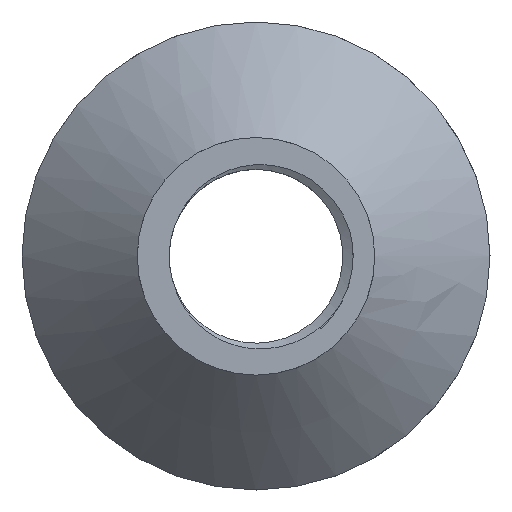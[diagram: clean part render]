
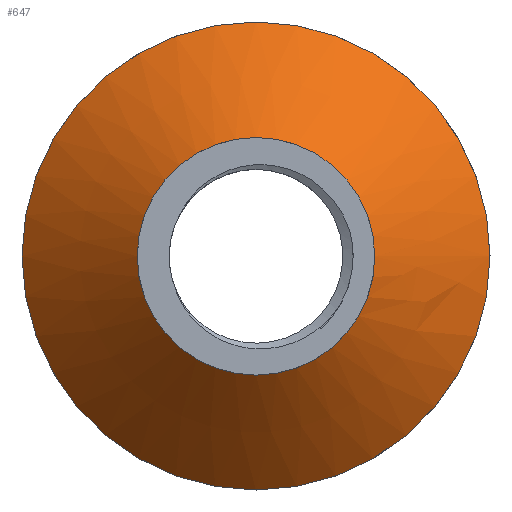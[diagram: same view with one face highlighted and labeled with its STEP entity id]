
A CAD part, front view. The second image highlights one B-rep face of the part: STEP entity #647.
In plain terms, the highlighted free-form (B-spline) face has degree [1, 2] with [2, 9] control points.
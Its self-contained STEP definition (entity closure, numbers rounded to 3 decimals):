
#29=(
BOUNDED_SURFACE()
B_SPLINE_SURFACE(1,2,((#3430,#3431,#3432,#3433,#3434,#3435,#3436,#3437,
#3438),(#3439,#3440,#3441,#3442,#3443,#3444,#3445,#3446,#3447)),
 .UNSPECIFIED.,.F.,.T.,.F.)
B_SPLINE_SURFACE_WITH_KNOTS((2,2),(3,2,2,2,3),(-0.002,0.69),
(-3.142,-1.571,0.,1.571,3.142),
 .UNSPECIFIED.)
GEOMETRIC_REPRESENTATION_ITEM()
RATIONAL_B_SPLINE_SURFACE(((1.,0.707,1.,0.707,1.,
0.707,1.,0.707,1.),(1.,0.707,1.,0.707,
1.,0.707,1.,0.707,1.)))
REPRESENTATION_ITEM('')
SURFACE()
);
#83=FACE_OUTER_BOUND('',#123,.T.);
#123=EDGE_LOOP('',(#582,#583,#584,#585,#586,#587));
#140=CIRCLE('',#695,16.5);
#142=CIRCLE('',#697,16.5);
#144=CIRCLE('',#704,32.5);
#145=CIRCLE('',#705,32.5);
#185=B_SPLINE_CURVE_WITH_KNOTS('',1,(#3448,#3449),.UNSPECIFIED.,.F.,.F.,
(2,2),(-0.689,0.),.UNSPECIFIED.);
#287=VERTEX_POINT('',#1676);
#288=VERTEX_POINT('',#1677);
#292=VERTEX_POINT('',#2369);
#293=VERTEX_POINT('',#2371);
#362=EDGE_CURVE('',#287,#288,#140,.T.);
#365=EDGE_CURVE('',#288,#287,#142,.T.);
#376=EDGE_CURVE('',#292,#293,#144,.T.);
#377=EDGE_CURVE('',#293,#292,#145,.T.);
#393=EDGE_CURVE('',#288,#293,#185,.T.);
#582=ORIENTED_EDGE('',*,*,#362,.T.);
#583=ORIENTED_EDGE('',*,*,#393,.T.);
#584=ORIENTED_EDGE('',*,*,#376,.F.);
#585=ORIENTED_EDGE('',*,*,#377,.F.);
#586=ORIENTED_EDGE('',*,*,#393,.F.);
#587=ORIENTED_EDGE('',*,*,#365,.T.);
#647=ADVANCED_FACE('',(#83),#29,.F.);
#695=AXIS2_PLACEMENT_3D('',#1678,#805,#806);
#697=AXIS2_PLACEMENT_3D('',#1682,#810,#811);
#704=AXIS2_PLACEMENT_3D('',#2372,#825,#826);
#705=AXIS2_PLACEMENT_3D('',#2373,#827,#828);
#805=DIRECTION('center_axis',(0.,1.,0.));
#806=DIRECTION('ref_axis',(-1.,0.,0.));
#810=DIRECTION('center_axis',(0.,1.,0.));
#811=DIRECTION('ref_axis',(-1.,0.,0.));
#825=DIRECTION('center_axis',(0.,1.,0.));
#826=DIRECTION('ref_axis',(1.,0.,0.));
#827=DIRECTION('center_axis',(0.,1.,0.));
#828=DIRECTION('ref_axis',(1.,0.,0.));
#1676=CARTESIAN_POINT('',(16.5,2.,-0.045));
#1677=CARTESIAN_POINT('',(16.5,2.,-0.069));
#1678=CARTESIAN_POINT('Origin',(0.,2.,-0.045));
#1682=CARTESIAN_POINT('Origin',(0.,2.,-0.045));
#2369=CARTESIAN_POINT('',(-32.5,17.678,0.));
#2371=CARTESIAN_POINT('',(32.5,17.678,-0.047));
#2372=CARTESIAN_POINT('Origin',(0.,17.678,0.));
#2373=CARTESIAN_POINT('Origin',(0.,17.678,0.));
#3430=CARTESIAN_POINT('Ctrl Pts',(32.556,17.733,-0.047));
#3431=CARTESIAN_POINT('Ctrl Pts',(32.556,17.687,32.509));
#3432=CARTESIAN_POINT('Ctrl Pts',(0.,17.687,
32.509));
#3433=CARTESIAN_POINT('Ctrl Pts',(-32.556,17.687,32.509));
#3434=CARTESIAN_POINT('Ctrl Pts',(-32.556,17.733,-0.047));
#3435=CARTESIAN_POINT('Ctrl Pts',(-32.556,17.779,-32.603));
#3436=CARTESIAN_POINT('Ctrl Pts',(0.,17.779,
-32.603));
#3437=CARTESIAN_POINT('Ctrl Pts',(32.556,17.779,-32.603));
#3438=CARTESIAN_POINT('Ctrl Pts',(32.556,17.733,-0.047));
#3439=CARTESIAN_POINT('Ctrl Pts',(16.474,1.975,-0.069));
#3440=CARTESIAN_POINT('Ctrl Pts',(16.474,1.951,16.405));
#3441=CARTESIAN_POINT('Ctrl Pts',(0.,1.951,
16.405));
#3442=CARTESIAN_POINT('Ctrl Pts',(-16.474,1.951,16.405));
#3443=CARTESIAN_POINT('Ctrl Pts',(-16.474,1.975,-0.069));
#3444=CARTESIAN_POINT('Ctrl Pts',(-16.474,1.998,-16.543));
#3445=CARTESIAN_POINT('Ctrl Pts',(0.,1.998,
-16.543));
#3446=CARTESIAN_POINT('Ctrl Pts',(16.474,1.998,-16.543));
#3447=CARTESIAN_POINT('Ctrl Pts',(16.474,1.975,-0.069));
#3448=CARTESIAN_POINT('Ctrl Pts',(16.5,2.,-0.069));
#3449=CARTESIAN_POINT('Ctrl Pts',(32.5,17.678,-0.047));
